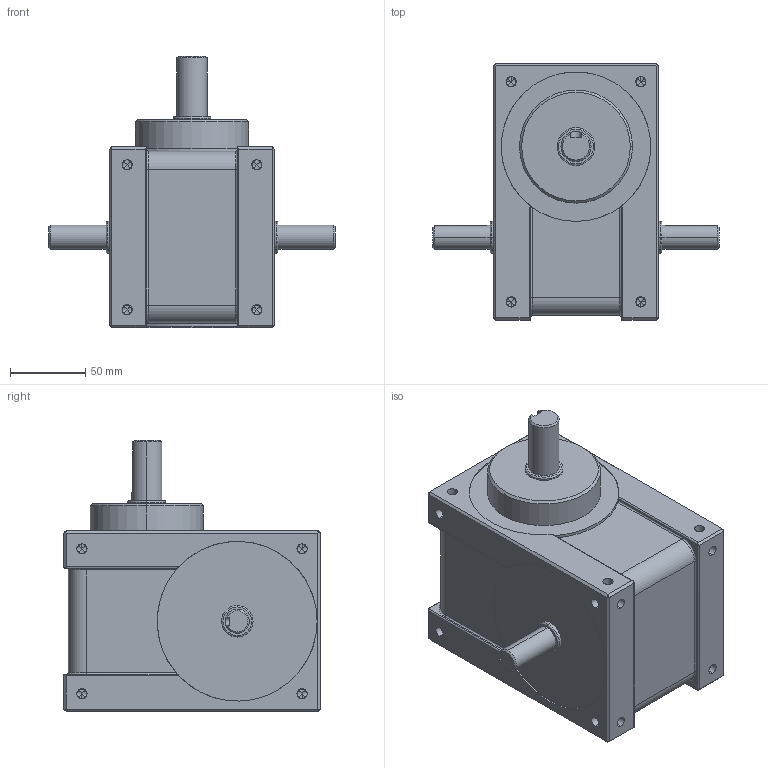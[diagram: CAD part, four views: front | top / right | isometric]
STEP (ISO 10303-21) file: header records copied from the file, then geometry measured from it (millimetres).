
FILE_DESCRIPTION((''),'2;1');
FILE_NAME('60DS','2015-01-15T',('松仔'),(''),'PRO/ENGINEER BY PARAMETRIC TECHNOLOGY CORPORATION, 2013430','PRO/ENGINEER BY PARAMETRIC TECHNOLOGY CORPORATION, 2013430','');
FILE_SCHEMA(('CONFIG_CONTROL_DESIGN'));
Length unit declared in the file: millimetre
Products named in the file (1): 60DS
Bounding box: 190 x 170 x 180 mm (x, y, z)
Volume: 2209341.8 mm3; surface area: 120781.4 mm2
Topology: 1 solids, 1 shells, 494 faces, 1119 edges, 626 vertices
Faces by surface type: cylinder 269, plane 198, torus 14, sphere 8, cone 5
Entity records: 14142 total; most frequent: CARTESIAN_POINT 3627, ORIENTED_EDGE 2238, DIRECTION 2069, EDGE_CURVE 1119, AXIS2_PLACEMENT_3D 809, VERTEX_POINT 626, EDGE_LOOP 525, FACE_OUTER_BOUND 494
